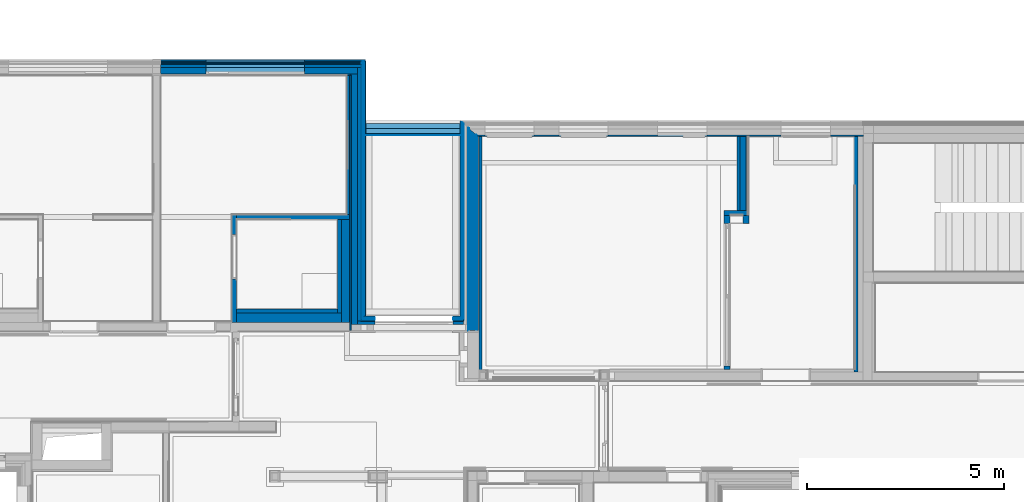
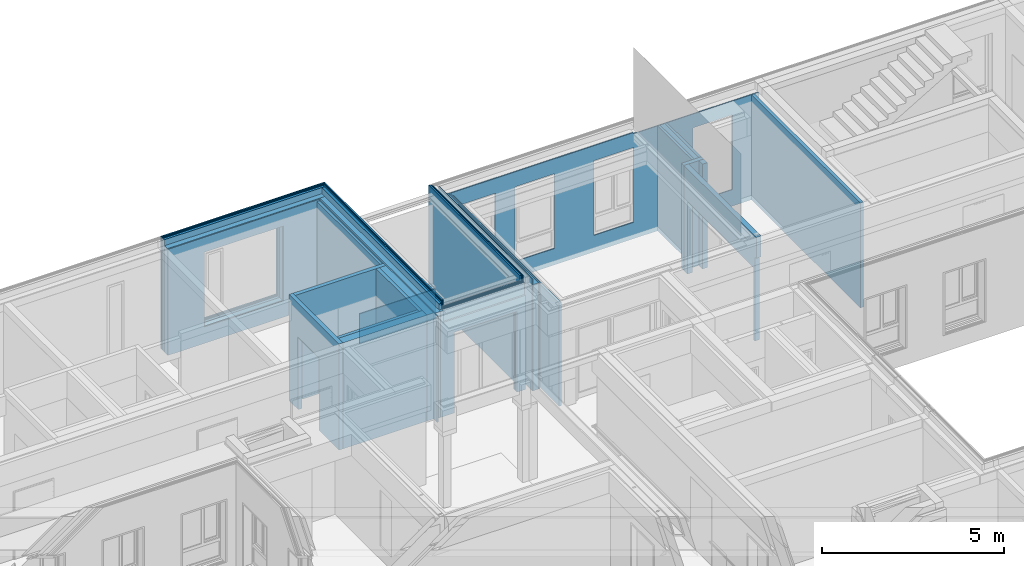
# One storey, part 37 of 222: 46 walls, 22 openings.
"""IFC4 building model written with IfcOpenShell, lengths in metres."""

from ifc_helpers import new_model, entity, si_unit, converted_unit, derived_unit, frame, frame_2d, origin, origin_with_axes, place, context, subcontext, project, spatial, polyline, rectangle, outline, extrude, clip, bounded_halfspace, material, element, save


model = new_model("IFC4")

# Units and contexts
model_context = context("Model", 3, precision=1e-05, world=origin())
body_context = subcontext(model_context, "Body", "Model", "MODEL_VIEW")
ifc_project = project(units=[si_unit("LENGTHUNIT", "METRE"), si_unit("AREAUNIT", "SQUARE_METRE"), si_unit("VOLUMEUNIT", "CUBIC_METRE"), si_unit("MASSUNIT", "GRAM", prefix="KILO"), converted_unit("PLANEANGLEUNIT", "DEGREE", entity("IfcPlaneAngleMeasure", 0.0174532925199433), si_unit("PLANEANGLEUNIT", "RADIAN"), dimensions=[0, 0, 0, 0, 0, 0, 0]), derived_unit("THERMALTRANSMITTANCEUNIT", [(si_unit("POWERUNIT", "WATT"), 1), (si_unit("THERMODYNAMICTEMPERATUREUNIT", "KELVIN"), -1), (si_unit("LENGTHUNIT", "METRE"), -2)]), derived_unit("VOLUMETRICFLOWRATEUNIT", [(si_unit("LENGTHUNIT", "METRE"), 3), (converted_unit("TIMEUNIT", "hour", entity("IfcTimeMeasure", 3600.0), si_unit("TIMEUNIT", "SECOND"), dimensions=[0, 0, 1, 0, 0, 0, 0]), -1), (si_unit("LENGTHUNIT", "METRE"), -1)])], contexts=[model_context])

# Site, building, storey
site_placement = place(None, origin())
site = spatial("IfcSite", under=ifc_project, at=site_placement, Name="Psychiatrie Neubau Wunstorf", CompositionType="ELEMENT")
building_placement = place(site_placement, origin())
building = spatial("IfcBuilding", under=site, at=building_placement, Name="Neubau H2 Stationsgebäude", CompositionType="ELEMENT")
storey_placement = place(building_placement, frame((0.0, 0.0, 3.6)))
storey = spatial("IfcBuildingStorey", under=building, at=storey_placement, Name="H2 Ebene +1", CompositionType="ELEMENT", Elevation=3.6)

# Wall, opening
ifc_material_1 = material(Name="WA-DL")
wall_1_placement = place(storey_placement, frame((35.085, 24.3100036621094, 0.0)))
wall_1 = element("IfcWall", 1, at=wall_1_placement, inside=storey, material=ifc_material_1, Name="Staffel + Zwischendämmung", context=body_context, shape_type="Clipping", body=[
    clip(extrude(rectangle(XDim=2.6925, YDim=0.08, at=frame_2d((1.34625, 0.04), x_axis=(1.0, 0.0))), origin_with_axes(), (0.0, 0.0, 1.0), 3.55), bounded_halfspace(frame((1.39125, 0.0249981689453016, 3.15), z_axis=(0.0, 0.0, -1.0), x_axis=(0.0, 1.0, 0.0)), True, origin_with_axes(), polyline([(2.6925, 0.0), (2.6925, 0.0499963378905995), (0.09, 0.0499963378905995), (0.09, 0.0), (2.6925, 0.0)]))),
])
opening_1_placement = place(wall_1_placement, frame((0.441001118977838, 0.0, 0.0), z_axis=(0.0, 1.0, 0.0), x_axis=(0.0, 0.0, 1.0)))
element("IfcOpeningElement", 2, at=opening_1_placement, cuts=wall_1, Name="Türöffnung", ObjectType="Opening", context=body_context, shape_type="SweptSolid", body=[
    extrude(outline(polyline([(2.7, 1.98299888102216), (2.7, 0.0), (0.0, 0.0), (0.0, 1.98299888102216), (2.7, 1.98299888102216)])), origin_with_axes(), (0.0, 0.0, 1.0), 0.08),
])

ifc_material_2 = material(Name="WA-TP")
wall_2_placement = place(storey_placement, frame((35.165, 24.3900036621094, 0.0)))
wall_2 = element("IfcWall", 3, at=wall_2_placement, inside=storey, material=ifc_material_2, Name="nichtbrennbare Trägerplatte", context=body_context, shape_type="SweptSolid", body=[
    extrude(rectangle(XDim=2.6125, YDim=0.036, at=frame_2d((1.30625, 0.018), x_axis=(1.0, 0.0))), origin_with_axes(), (0.0, 0.0, 1.0), 3.55),
])
opening_2_placement = place(wall_2_placement, frame((0.361001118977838, 0.0, 0.0), z_axis=(0.0, 1.0, 0.0), x_axis=(0.0, 0.0, 1.0)))
element("IfcOpeningElement", 4, at=opening_2_placement, cuts=wall_2, Name="Türöffnung", ObjectType="Opening", context=body_context, shape_type="SweptSolid", body=[
    extrude(outline(polyline([(2.7, 1.98299888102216), (2.7, 0.0), (0.0, 0.0), (0.0, 1.98299888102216), (2.7, 1.98299888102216)])), origin_with_axes(), (0.0, 0.0, 1.0), 0.036),
])

ifc_material_3 = material(Name="WA-KL")
wall_3_placement = place(storey_placement, frame((35.201, 24.4260036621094, 0.0)))
wall_3 = element("IfcWall", 5, at=wall_3_placement, inside=storey, material=ifc_material_3, Name="Konterlattung", context=body_context, shape_type="SweptSolid", body=[
    extrude(rectangle(XDim=2.5265, YDim=0.024, at=frame_2d((1.26325, 0.012), x_axis=(1.0, 0.0))), origin_with_axes(), (0.0, 0.0, 1.0), 3.55),
])
opening_3_placement = place(wall_3_placement, frame((0.325001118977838, 0.0, 0.0), z_axis=(0.0, 1.0, 0.0), x_axis=(0.0, 0.0, 1.0)))
element("IfcOpeningElement", 6, at=opening_3_placement, cuts=wall_3, Name="Türöffnung", ObjectType="Opening", context=body_context, shape_type="SweptSolid", body=[
    extrude(outline(polyline([(2.7, 1.98299888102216), (2.7, 0.0), (0.0, 0.0), (0.0, 1.98299888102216), (2.7, 1.98299888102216)])), origin_with_axes(), (0.0, 0.0, 1.0), 0.024),
])

ifc_material_4 = material(Name="WA-TL")
wall_4_placement = place(storey_placement, frame((35.225, 24.4500036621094, 0.0)))
wall_4 = element("IfcWall", 7, at=wall_4_placement, inside=storey, material=ifc_material_4, Name="Traglattung", context=body_context, shape_type="SweptSolid", body=[
    extrude(rectangle(XDim=2.5025, YDim=0.024, at=frame_2d((1.25125, 0.012), x_axis=(1.0, 0.0))), origin_with_axes(), (0.0, 0.0, 1.0), 3.55),
])
opening_4_placement = place(wall_4_placement, frame((0.301001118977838, 0.0, 0.0), z_axis=(0.0, 1.0, 0.0), x_axis=(0.0, 0.0, 1.0)))
element("IfcOpeningElement", 8, at=opening_4_placement, cuts=wall_4, Name="Türöffnung", ObjectType="Opening", context=body_context, shape_type="SweptSolid", body=[
    extrude(outline(polyline([(2.7, 1.98299888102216), (2.7, 0.0), (0.0, 0.0), (0.0, 1.98299888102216), (2.7, 1.98299888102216)])), origin_with_axes(), (0.0, 0.0, 1.0), 0.024),
])

ifc_material_5 = material(Name="WA-HS")
wall_5_placement = place(storey_placement, frame((35.249, 24.4740036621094, 0.0)))
wall_5 = element("IfcWall", 9, at=wall_5_placement, inside=storey, material=ifc_material_5, Name="Keramikschindel", context=body_context, shape_type="SweptSolid", body=[
    extrude(rectangle(XDim=2.4365, YDim=0.042, at=frame_2d((1.21825, 0.021), x_axis=(1.0, 0.0))), origin_with_axes(), (0.0, 0.0, 1.0), 3.55),
])
opening_5_placement = place(wall_5_placement, frame((0.277001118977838, 0.0, 0.0), z_axis=(0.0, 1.0, 0.0), x_axis=(0.0, 0.0, 1.0)))
element("IfcOpeningElement", 10, at=opening_5_placement, cuts=wall_5, Name="Türöffnung", ObjectType="Opening", context=body_context, shape_type="SweptSolid", body=[
    extrude(outline(polyline([(2.7, 1.98299888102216), (2.7, 0.0), (0.0, 0.0), (0.0, 1.98299888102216), (2.7, 1.98299888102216)])), origin_with_axes(), (0.0, 0.0, 1.0), 0.042),
])

# Walls
ifc_material_6 = material(Name="WA-LB")
wall_6_placement = place(storey_placement, frame((38.1475, 24.1500036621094, 0.0), z_axis=(0.0, 0.0, 1.0), x_axis=(0.0, 1.0, 0.0)))
element("IfcWall", 11, at=wall_6_placement, inside=storey, material=ifc_material_6, Name="2x Gipsfaserplatte", context=body_context, shape_type="SweptSolid", body=[
    extrude(outline(polyline([(0.0, -0.036), (4.91399602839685, -0.036), (4.94532070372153, 0.0), (0.0, 0.0), (0.0, -0.036)])), frame((0.0, 0.036, 0.0), z_axis=(0.0, 0.0, 1.0), x_axis=(1.0, 0.0, 0.0)), (0.0, 0.0, 1.0), 3.55),
])
ifc_material_7 = material(Name="WA-LB")
wall_7_placement = place(storey_placement, frame((38.1115, 24.1500036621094, 0.0), z_axis=(0.0, 0.0, 1.0), x_axis=(0.0, 1.0, 0.0)))
element("IfcWall", 12, at=wall_7_placement, inside=storey, material=ifc_material_7, Name="Holzwerkstoffplatte", context=body_context, shape_type="SweptSolid", body=[
    extrude(outline(polyline([(0.0, -0.019), (4.94532070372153, -0.019), (4.96185317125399, 0.0), (0.0, 0.0), (0.0, -0.019)])), frame((0.0, 0.019, 0.0), z_axis=(0.0, 0.0, 1.0), x_axis=(1.0, 0.0, 0.0)), (0.0, 0.0, 1.0), 3.55),
])
ifc_material_8 = material(Name="WA-HD")
wall_8_placement = place(storey_placement, frame((38.0925, 24.1500036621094, 0.0), z_axis=(0.0, 0.0, 1.0), x_axis=(0.0, 1.0, 0.0)))
element("IfcWall", 13, at=wall_8_placement, inside=storey, material=ifc_material_8, Name="Holzständer + Zwischendämmung", context=body_context, shape_type="SweptSolid", body=[
    extrude(outline(polyline([(0.0, -0.18), (4.96185317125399, -0.18), (5.11847654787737, 0.0), (0.0, 0.0), (0.0, -0.18)])), frame((0.0, 0.18, 0.0), z_axis=(0.0, 0.0, 1.0), x_axis=(1.0, 0.0, 0.0)), (0.0, 0.0, 1.0), 3.55),
])
ifc_material_9 = material(Name="WA-LB")
wall_9_placement = place(storey_placement, frame((37.9125, 24.1500036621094, 0.0), z_axis=(0.0, 0.0, 1.0), x_axis=(0.0, 1.0, 0.0)))
element("IfcWall", 14, at=wall_9_placement, inside=storey, material=ifc_material_9, Name="Holzwerkstoffplatte", context=body_context, shape_type="SweptSolid", body=[
    extrude(outline(polyline([(0.0, -0.019), (5.11847654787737, -0.019), (5.13500901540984, 0.0), (0.0, 0.0), (0.0, -0.019)])), frame((0.0, 0.019, 0.0), z_axis=(0.0, 0.0, 1.0), x_axis=(1.0, 0.0, 0.0)), (0.0, 0.0, 1.0), 3.75),
])
ifc_material_10 = material(Name="WA-KL")
wall_10_placement = place(storey_placement, frame((37.7775, 24.4260036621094, 0.0), z_axis=(0.0, 0.0, 1.0), x_axis=(0.0, 1.0, 0.0)))
element("IfcWall", 15, at=wall_10_placement, inside=storey, material=ifc_material_10, Name="Konterlattung", context=body_context, shape_type="SweptSolid", body=[
    extrude(outline(polyline([(0.0, -0.025), (4.9599440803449, -0.025), (4.98169732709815, 0.0), (0.0, 0.0), (0.0, -0.025)])), frame((0.0, 0.025, 0.0), z_axis=(0.0, 0.0, 1.0), x_axis=(1.0, 0.0, 0.0)), (0.0, 0.0, 1.0), 3.75),
])
ifc_material_11 = material(Name="WA-TL")
wall_11_placement = place(storey_placement, frame((37.7525, 24.4260036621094, 0.0), z_axis=(0.0, 0.0, 1.0), x_axis=(0.0, 1.0, 0.0)))
element("IfcWall", 16, at=wall_11_placement, inside=storey, material=ifc_material_11, Name="Traglattung", context=body_context, shape_type="SweptSolid", body=[
    extrude(outline(polyline([(0.0, -0.025), (4.98169732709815, -0.025), (5.00345057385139, 0.0), (0.0, 0.0), (0.0, -0.025)])), frame((0.0, 0.025, 0.0), z_axis=(0.0, 0.0, 1.0), x_axis=(1.0, 0.0, 0.0)), (0.0, 0.0, 1.0), 3.75),
])
ifc_material_12 = material(Name="WA-HS")
wall_12_placement = place(storey_placement, frame((37.7275, 24.4500036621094, 0.0), z_axis=(0.0, 0.0, 1.0), x_axis=(0.0, 1.0, 0.0)))
element("IfcWall", 17, at=wall_12_placement, inside=storey, material=ifc_material_12, Name="Keramikschindel", context=body_context, shape_type="Clipping", body=[
    clip(extrude(outline(polyline([(0.0, -0.042), (4.97945057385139, -0.042), (5.01599602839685, 0.0), (0.0, 0.0), (0.0, -0.042)])), frame((0.0, 0.042, 0.0), z_axis=(0.0, 0.0, 1.0), x_axis=(1.0, 0.0, 0.0)), (0.0, 0.0, 1.0), 3.75), bounded_halfspace(frame((0.012, 0.021, 3.55), z_axis=(0.0, 0.0, 1.0), x_axis=(0.0, -1.0, 0.0)), True, origin_with_axes(), polyline([(0.0, 0.042), (0.0, 0.0), (0.024, 0.0), (0.024, 0.042), (0.0, 0.042)]))),
])
ifc_material_13 = material(Name="WA-LB")
wall_13_placement = place(storey_placement, frame((34.889, 30.614, 0.0), z_axis=(0.0, 0.0, 1.0), x_axis=(0.0, -1.0, 0.0)))
element("IfcWall", 18, at=wall_13_placement, inside=storey, material=ifc_material_13, context=body_context, shape_type="SweptSolid", body=[
    extrude(rectangle(XDim=6.46399633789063, YDim=0.036, at=frame_2d((3.23199816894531, 0.018), x_axis=(1.0, 0.0))), origin_with_axes(), (0.0, 0.0, 1.0), 3.55),
])
ifc_material_14 = material(Name="WA-HD")
wall_14_placement = place(storey_placement, frame((34.925, 30.65, 0.0), z_axis=(0.0, 0.0, 1.0), x_axis=(0.0, -1.0, 0.0)))
element("IfcWall", 19, at=wall_14_placement, inside=storey, material=ifc_material_14, context=body_context, shape_type="SweptSolid", body=[
    extrude(rectangle(XDim=6.33999633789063, YDim=0.16, at=frame_2d((3.16999816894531, 0.08), x_axis=(1.0, 0.0))), origin_with_axes(), (0.0, 0.0, 1.0), 3.55),
])
ifc_material_15 = material(Name="WA-DL")
wall_15_placement = place(storey_placement, frame((35.085, 30.81, 0.0), z_axis=(0.0, 0.0, 1.0), x_axis=(0.0, -1.0, 0.0)))
element("IfcWall", 20, at=wall_15_placement, inside=storey, material=ifc_material_15, context=body_context, shape_type="SweptSolid", body=[
    extrude(rectangle(XDim=6.41999633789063, YDim=0.08, at=frame_2d((3.20999816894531, 0.04), x_axis=(1.0, 0.0))), origin_with_axes(), (0.0, 0.0, 1.0), 3.75),
])
ifc_material_16 = material(Name="WA-LB")
wall_16_placement = place(storey_placement, frame((35.165, 30.89, 0.0), z_axis=(0.0, 0.0, 1.0), x_axis=(0.0, -1.0, 0.0)))
element("IfcWall", 21, at=wall_16_placement, inside=storey, material=ifc_material_16, context=body_context, shape_type="SweptSolid", body=[
    extrude(rectangle(XDim=6.46399633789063, YDim=0.036, at=frame_2d((3.23199816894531, 0.018), x_axis=(1.0, 0.0))), origin_with_axes(), (0.0, 0.0, 1.0), 3.75),
])
ifc_material_17 = material(Name="WA-KL")
wall_17_placement = place(storey_placement, frame((35.201, 30.926, 0.0), z_axis=(0.0, 0.0, 1.0), x_axis=(0.0, -1.0, 0.0)))
element("IfcWall", 22, at=wall_17_placement, inside=storey, material=ifc_material_17, context=body_context, shape_type="SweptSolid", body=[
    extrude(rectangle(XDim=6.47599633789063, YDim=0.024, at=frame_2d((3.23799816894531, 0.012), x_axis=(1.0, 0.0))), origin_with_axes(), (0.0, 0.0, 1.0), 3.75),
])
ifc_material_18 = material(Name="WA-TL")
wall_18_placement = place(storey_placement, frame((35.225, 30.95, 0.0), z_axis=(0.0, 0.0, 1.0), x_axis=(0.0, -1.0, 0.0)))
element("IfcWall", 23, at=wall_18_placement, inside=storey, material=ifc_material_18, context=body_context, shape_type="SweptSolid", body=[
    extrude(rectangle(XDim=6.47599633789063, YDim=0.024, at=frame_2d((3.23799816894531, 0.012), x_axis=(1.0, 0.0))), origin_with_axes(), (0.0, 0.0, 1.0), 3.75),
])
ifc_material_19 = material(Name="WA-HS")
wall_19_placement = place(storey_placement, frame((35.249, 30.974, 0.0), z_axis=(0.0, 0.0, 1.0), x_axis=(0.0, -1.0, 0.0)))
element("IfcWall", 24, at=wall_19_placement, inside=storey, material=ifc_material_19, Name="Keramikschindel", context=body_context, shape_type="SweptSolid", body=[
    extrude(rectangle(XDim=6.45799633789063, YDim=0.042, at=frame_2d((3.22899816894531, 0.021), x_axis=(1.0, 0.0))), origin_with_axes(), (0.0, 0.0, 1.0), 3.75),
])

# Wall, opening
ifc_material_20 = material(Name="WA-LB")
wall_20_placement = place(storey_placement, frame((30.1, 30.614, 0.0)))
wall_20 = element("IfcWall", 25, at=wall_20_placement, inside=storey, material=ifc_material_20, context=body_context, shape_type="SweptSolid", body=[
    extrude(rectangle(XDim=4.825, YDim=0.036, at=frame_2d((2.4125, 0.018), x_axis=(1.0, 0.0))), origin_with_axes(), (0.0, 0.0, 1.0), 3.55),
])
opening_6_placement = place(wall_20_placement, frame((1.14999999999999, 0.0, 0.55), z_axis=(0.0, 1.0, 0.0), x_axis=(0.0, 0.0, 1.0)))
element("IfcOpeningElement", 26, at=opening_6_placement, cuts=wall_20, Name="Fensteröffnung", ObjectType="Opening", context=body_context, shape_type="SweptSolid", body=[
    extrude(outline(polyline([(2.5, 2.5), (2.5, 0.0), (0.0, 0.0), (0.0, 2.5), (2.5, 2.5)])), origin_with_axes(), (0.0, 0.0, 1.0), 0.036),
])

ifc_material_21 = material(Name="WA-HD")
wall_21_placement = place(storey_placement, frame((30.1, 30.65, 0.0)))
wall_21 = element("IfcWall", 27, at=wall_21_placement, inside=storey, material=ifc_material_21, context=body_context, shape_type="SweptSolid", body=[
    extrude(rectangle(XDim=4.985, YDim=0.16, at=frame_2d((2.4925, 0.08), x_axis=(1.0, 0.0))), origin_with_axes(), (0.0, 0.0, 1.0), 3.55),
])
opening_7_placement = place(wall_21_placement, frame((1.14999999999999, 0.0, 0.55), z_axis=(0.0, 1.0, 0.0), x_axis=(0.0, 0.0, 1.0)))
element("IfcOpeningElement", 28, at=opening_7_placement, cuts=wall_21, Name="Fensteröffnung", ObjectType="Opening", context=body_context, shape_type="SweptSolid", body=[
    extrude(outline(polyline([(2.5, 2.5), (2.5, 0.0), (0.0, 0.0), (0.0, 2.5), (2.5, 2.5)])), origin_with_axes(), (0.0, 0.0, 1.0), 0.16),
])

ifc_material_22 = material(Name="WA-DL")
wall_22_placement = place(storey_placement, frame((30.1, 30.81, 0.0)))
wall_22 = element("IfcWall", 29, at=wall_22_placement, inside=storey, material=ifc_material_22, context=body_context, shape_type="SweptSolid", body=[
    extrude(rectangle(XDim=5.065, YDim=0.08, at=frame_2d((2.5325, 0.04), x_axis=(1.0, 0.0))), origin_with_axes(), (0.0, 0.0, 1.0), 3.75),
])
opening_8_placement = place(wall_22_placement, frame((1.14999999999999, 0.0, 0.55), z_axis=(0.0, 1.0, 0.0), x_axis=(0.0, 0.0, 1.0)))
element("IfcOpeningElement", 30, at=opening_8_placement, cuts=wall_22, Name="Fensteröffnung", ObjectType="Opening", context=body_context, shape_type="SweptSolid", body=[
    extrude(outline(polyline([(2.5, 2.5), (2.5, 0.0), (0.0, 0.0), (0.0, 2.5), (2.5, 2.5)])), origin_with_axes(), (0.0, 0.0, 1.0), 0.08),
])

ifc_material_23 = material(Name="WA-LB")
wall_23_placement = place(storey_placement, frame((30.1, 30.89, 0.0)))
wall_23 = element("IfcWall", 31, at=wall_23_placement, inside=storey, material=ifc_material_23, context=body_context, shape_type="SweptSolid", body=[
    extrude(rectangle(XDim=5.101, YDim=0.036, at=frame_2d((2.5505, 0.018), x_axis=(1.0, 0.0))), origin_with_axes(), (0.0, 0.0, 1.0), 3.75),
])
opening_9_placement = place(wall_23_placement, frame((1.14999999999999, 0.0, 0.55), z_axis=(0.0, 1.0, 0.0), x_axis=(0.0, 0.0, 1.0)))
element("IfcOpeningElement", 32, at=opening_9_placement, cuts=wall_23, Name="Fensteröffnung", ObjectType="Opening", context=body_context, shape_type="SweptSolid", body=[
    extrude(outline(polyline([(2.5, 2.5), (2.5, 0.0), (0.0, 0.0), (0.0, 2.5), (2.5, 2.5)])), origin_with_axes(), (0.0, 0.0, 1.0), 0.036),
])

ifc_material_24 = material(Name="WA-KL")
wall_24_placement = place(storey_placement, frame((30.1, 30.926, 0.0)))
wall_24 = element("IfcWall", 33, at=wall_24_placement, inside=storey, material=ifc_material_24, context=body_context, shape_type="SweptSolid", body=[
    extrude(rectangle(XDim=5.125, YDim=0.024, at=frame_2d((2.5625, 0.012), x_axis=(1.0, 0.0))), origin_with_axes(), (0.0, 0.0, 1.0), 3.75),
])
opening_10_placement = place(wall_24_placement, frame((1.14999999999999, 0.0, 0.55), z_axis=(0.0, 1.0, 0.0), x_axis=(0.0, 0.0, 1.0)))
element("IfcOpeningElement", 34, at=opening_10_placement, cuts=wall_24, Name="Fensteröffnung", ObjectType="Opening", context=body_context, shape_type="SweptSolid", body=[
    extrude(outline(polyline([(2.5, 2.5), (2.5, 0.0), (0.0, 0.0), (0.0, 2.5), (2.5, 2.5)])), origin_with_axes(), (0.0, 0.0, 1.0), 0.024),
])

ifc_material_25 = material(Name="WA-TL")
wall_25_placement = place(storey_placement, frame((30.1, 30.95, 0.0)))
wall_25 = element("IfcWall", 35, at=wall_25_placement, inside=storey, material=ifc_material_25, context=body_context, shape_type="SweptSolid", body=[
    extrude(rectangle(XDim=5.149, YDim=0.024, at=frame_2d((2.5745, 0.012), x_axis=(1.0, 0.0))), origin_with_axes(), (0.0, 0.0, 1.0), 3.75),
])
opening_11_placement = place(wall_25_placement, frame((1.14999999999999, 0.0, 0.55), z_axis=(0.0, 1.0, 0.0), x_axis=(0.0, 0.0, 1.0)))
element("IfcOpeningElement", 36, at=opening_11_placement, cuts=wall_25, Name="Fensteröffnung", ObjectType="Opening", context=body_context, shape_type="SweptSolid", body=[
    extrude(outline(polyline([(2.5, 2.5), (2.5, 0.0), (0.0, 0.0), (0.0, 2.5), (2.5, 2.5)])), origin_with_axes(), (0.0, 0.0, 1.0), 0.024),
])

ifc_material_26 = material(Name="WA-HS")
wall_26_placement = place(storey_placement, frame((30.1, 30.974, 0.0)))
wall_26 = element("IfcWall", 37, at=wall_26_placement, inside=storey, material=ifc_material_26, context=body_context, shape_type="SweptSolid", body=[
    extrude(rectangle(XDim=5.191, YDim=0.042, at=frame_2d((2.5955, 0.021), x_axis=(1.0, 0.0))), origin_with_axes(), (0.0, 0.0, 1.0), 3.75),
])
opening_12_placement = place(wall_26_placement, frame((1.14999999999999, 0.0, 0.55), z_axis=(0.0, 1.0, 0.0), x_axis=(0.0, 0.0, 1.0)))
element("IfcOpeningElement", 38, at=opening_12_placement, cuts=wall_26, Name="Fensteröffnung", ObjectType="Opening", context=body_context, shape_type="SweptSolid", body=[
    extrude(outline(polyline([(2.5, 2.5), (2.5, 0.0), (0.0, 0.0), (0.0, 2.5), (2.5, 2.5)])), origin_with_axes(), (0.0, 0.0, 1.0), 0.042),
])

# Wall, openings
ifc_material_27 = material(Name="WA-LB")
wall_27_placement = place(storey_placement, frame((38.1475, 29.0639996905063, 0.0)))
wall_27 = element("IfcWall", 39, at=wall_27_placement, inside=storey, material=ifc_material_27, context=body_context, shape_type="Clipping", body=[
    clip(extrude(outline(polyline([(0.041373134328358, 0.0), (9.79387313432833, 0.0), (9.79387313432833, 0.036), (0.0, 0.036), (0.041373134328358, 0.0)])), frame((-0.041373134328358, 0.0, 0.0), z_axis=(0.0, 0.0, 1.0), x_axis=(1.0, 0.0, 0.0)), (0.0, 0.0, 1.0), 3.55), bounded_halfspace(frame((7.77125000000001, 0.018, 3.51), z_axis=(0.0, 0.0, -1.0), x_axis=(1.0, 0.0, 0.0)), True, origin_with_axes(), polyline([(5.79000000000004, 0.0), (9.75249999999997, 0.0), (9.75249999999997, 0.036), (5.79000000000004, 0.036), (5.79000000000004, 0.0)]))),
])
opening_13_placement = place(wall_27_placement, frame((3.29000000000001, 0.036, 0.55), z_axis=(0.0, -1.0, 0.0), x_axis=(0.0, 0.0, 1.0)))
element("IfcOpeningElement", 40, at=opening_13_placement, cuts=wall_27, Name="Fensteröffnung", ObjectType="Opening", context=body_context, shape_type="SweptSolid", body=[
    extrude(outline(polyline([(2.5, 1.25), (2.5, 0.0), (0.0, 0.0), (0.0, 1.25), (2.5, 1.25)])), origin_with_axes(), (0.0, 0.0, 1.0), 0.036),
])
opening_14_placement = place(wall_27_placement, frame((5.79000000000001, 0.036, 0.55), z_axis=(0.0, -1.0, 0.0), x_axis=(0.0, 0.0, 1.0)))
element("IfcOpeningElement", 41, at=opening_14_placement, cuts=wall_27, Name="Fensteröffnung", ObjectType="Opening", context=body_context, shape_type="SweptSolid", body=[
    extrude(outline(polyline([(2.5, 1.25), (2.5, 0.0), (0.0, 0.0), (0.0, 1.25), (2.5, 1.25)])), origin_with_axes(), (0.0, 0.0, 1.0), 0.036),
])
opening_15_placement = place(wall_27_placement, frame((1.41500000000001, 0.036, 0.55), z_axis=(0.0, -1.0, 0.0), x_axis=(0.0, 0.0, 1.0)))
element("IfcOpeningElement", 42, at=opening_15_placement, cuts=wall_27, Name="Fensteröffnung", ObjectType="Opening", context=body_context, shape_type="SweptSolid", body=[
    extrude(outline(polyline([(2.5, 1.25), (2.5, 0.0), (0.0, 0.0), (0.0, 1.25), (2.5, 1.25)])), origin_with_axes(), (0.0, 0.0, 1.0), 0.036),
])
opening_16_placement = place(wall_27_placement, frame((8.91500000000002, 0.036, 0.55), z_axis=(0.0, -1.0, 0.0), x_axis=(0.0, 0.0, 1.0)))
element("IfcOpeningElement", 43, at=opening_16_placement, cuts=wall_27, Name="Fensteröffnung", ObjectType="Opening", context=body_context, shape_type="SweptSolid", body=[
    extrude(outline(polyline([(2.5, 1.25), (2.5, 0.0), (0.0, 0.0), (0.0, 1.25), (2.5, 1.25)])), origin_with_axes(), (0.0, 0.0, 1.0), 0.036),
])

# Wall, opening
ifc_material_28 = material(Name="WI-SYS")
wall_28_placement = place(storey_placement, frame((37.6855, 29.3924998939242, -0.51), z_axis=(0.0, 0.0, 1.0), x_axis=(-1.0, 0.0, 0.0)))
wall_28 = element("IfcWall", 44, at=wall_28_placement, inside=storey, material=ifc_material_28, context=body_context, shape_type="SweptSolid", body=[
    extrude(rectangle(XDim=2.3945, YDim=0.1275, at=frame_2d((1.19725, 0.06375), x_axis=(1.0, 0.0))), origin_with_axes(), (0.0, 0.0, 1.0), 3.685),
])
opening_17_placement = place(wall_28_placement, frame((0.0, 0.0, 1.0), z_axis=(0.0, 1.0, 0.0), x_axis=(0.0, 0.0, 1.0)))
element("IfcOpeningElement", 45, at=opening_17_placement, cuts=wall_28, Name="Fensteröffnung", ObjectType="Opening", context=body_context, shape_type="SweptSolid", body=[
    extrude(outline(polyline([(2.755, 2.3945), (2.755, 0.0), (0.0, 0.0), (0.0, 2.3945), (2.755, 2.3945)])), origin_with_axes(), (0.0, 0.0, 1.0), 0.1275),
])

ifc_material_29 = material(Name="WI-SYS")
wall_29_placement = place(storey_placement, frame((37.6855, 29.2649998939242, -0.51), z_axis=(0.0, 0.0, 1.0), x_axis=(-1.0, 0.0, 0.0)))
wall_29 = element("IfcWall", 46, at=wall_29_placement, inside=storey, material=ifc_material_29, context=body_context, shape_type="SweptSolid", body=[
    extrude(rectangle(XDim=2.3945, YDim=0.127500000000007, at=frame_2d((1.19725, 0.0637500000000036), x_axis=(1.0, 0.0))), origin_with_axes(), (0.0, 0.0, 1.0), 3.685),
])
opening_18_placement = place(wall_29_placement, frame((0.0, 0.0, 1.0), z_axis=(0.0, 1.0, 0.0), x_axis=(0.0, 0.0, 1.0)))
element("IfcOpeningElement", 47, at=opening_18_placement, cuts=wall_29, Name="Fensteröffnung", ObjectType="Opening", context=body_context, shape_type="SweptSolid", body=[
    extrude(outline(polyline([(2.755, 2.3945), (2.755, 0.0), (0.0, 0.0), (0.0, 2.3945), (2.755, 2.3945)])), origin_with_axes(), (0.0, 0.0, 1.0), 0.127500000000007),
])

ifc_material_30 = material(Name="WA-FAS")
wall_30_placement = place(storey_placement, frame((37.6855, 29.1374998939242, -0.51), z_axis=(0.0, 0.0, 1.0), x_axis=(-1.0, 0.0, 0.0)))
wall_30 = element("IfcWall", 48, at=wall_30_placement, inside=storey, material=ifc_material_30, context=body_context, shape_type="SweptSolid", body=[
    extrude(rectangle(XDim=2.3945, YDim=0.034, at=frame_2d((1.19725, 0.017), x_axis=(1.0, 0.0))), origin_with_axes(), (0.0, 0.0, 1.0), 3.685),
])
opening_19_placement = place(wall_30_placement, frame((0.0, 0.0, 1.0), z_axis=(0.0, 1.0, 0.0), x_axis=(0.0, 0.0, 1.0)))
element("IfcOpeningElement", 49, at=opening_19_placement, cuts=wall_30, Name="Fensteröffnung", ObjectType="Opening", context=body_context, shape_type="SweptSolid", body=[
    extrude(outline(polyline([(2.755, 2.3945), (2.755, 0.0), (0.0, 0.0), (0.0, 2.3945), (2.755, 2.3945)])), origin_with_axes(), (0.0, 0.0, 1.0), 0.034),
])

ifc_material_31 = material(Name="WA-FAS")
wall_31_placement = place(storey_placement, frame((37.6855, 29.1034998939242, -0.51), z_axis=(0.0, 0.0, 1.0), x_axis=(-1.0, 0.0, 0.0)))
wall_31 = element("IfcWall", 50, at=wall_31_placement, inside=storey, material=ifc_material_31, context=body_context, shape_type="SweptSolid", body=[
    extrude(rectangle(XDim=2.3945, YDim=0.006, at=frame_2d((1.19725, 0.003), x_axis=(1.0, 0.0))), origin_with_axes(), (0.0, 0.0, 1.0), 3.685),
])
opening_20_placement = place(wall_31_placement, frame((0.0, 0.0, 1.0), z_axis=(0.0, 1.0, 0.0), x_axis=(0.0, 0.0, 1.0)))
element("IfcOpeningElement", 51, at=opening_20_placement, cuts=wall_31, Name="Fensteröffnung", ObjectType="Opening", context=body_context, shape_type="SweptSolid", body=[
    extrude(outline(polyline([(2.755, 2.3945), (2.755, 0.0), (0.0, 0.0), (0.0, 2.3945), (2.755, 2.3945)])), origin_with_axes(), (0.0, 0.0, 1.0), 0.006),
])

ifc_material_32 = material(Name="WI-LB")
wall_32_placement = place(storey_placement, frame((44.525, 23.0959999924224, 0.0), z_axis=(0.0, 0.0, 1.0), x_axis=(0.0, 1.0, 0.0)))
wall_32 = element("IfcWall", 52, at=wall_32_placement, inside=storey, material=ifc_material_32, context=body_context, shape_type="Clipping", body=[
    clip(extrude(rectangle(XDim=3.96799969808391, YDim=0.15, at=frame_2d((1.98399984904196, 0.075), x_axis=(1.0, 0.0))), origin_with_axes(), (0.0, 0.0, 1.0), 3.51), bounded_halfspace(frame((0.0375, 0.075, 2.81), z_axis=(0.0, 0.0, 1.0), x_axis=(0.0, 1.0, 0.0)), True, origin_with_axes(), polyline([(0.075, 0.0), (0.075, 0.15), (0.0, 0.15), (0.0, 0.0), (0.075, 0.0)]))),
])
opening_21_placement = place(wall_32_placement, frame((0.157999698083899, 0.0, 0.0), z_axis=(0.0, 1.0, 0.0), x_axis=(0.0, 0.0, 1.0)))
element("IfcOpeningElement", 53, at=opening_21_placement, cuts=wall_32, Name="Türöffnung", ObjectType="Opening", context=body_context, shape_type="SweptSolid", body=[
    extrude(outline(polyline([(2.41, 3.61), (2.41, 0.0), (0.0, 0.0), (0.0, 3.61), (2.41, 3.61)])), origin_with_axes(), (0.0, 0.0, 1.0), 0.15),
])

# Wall
ifc_material_33 = material(Name="WI-LB")
wall_33_placement = place(storey_placement, frame((45.0, 27.1889996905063, 0.0), z_axis=(0.0, 0.0, 1.0), x_axis=(-1.0, 2.9103830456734e-14, 0.0)))
element("IfcWall", 54, at=wall_33_placement, inside=storey, material=ifc_material_33, context=body_context, shape_type="SweptSolid", body=[
    extrude(rectangle(XDim=0.624999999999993, YDim=0.125, at=frame_2d((0.312499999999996, 0.0625), x_axis=(1.0, 0.0))), origin_with_axes(), (0.0, 0.0, 1.0), 3.51),
])

# Wall, opening
ifc_material_34 = material(Name="WI-LB")
wall_34_placement = place(storey_placement, frame((31.898, 27.0895, 0.0), z_axis=(0.0, 0.0, 1.0), x_axis=(0.0, -1.0, 0.0)))
wall_34 = element("IfcWall", 55, at=wall_34_placement, inside=storey, material=ifc_material_34, context=body_context, shape_type="SweptSolid", body=[
    extrude(rectangle(XDim=2.74, YDim=0.125, at=frame_2d((1.37, 0.0625), x_axis=(1.0, 0.0))), origin_with_axes(), (0.0, 0.0, 1.0), 3.55),
])
opening_22_placement = place(wall_34_placement, frame((1.635, 0.125, 0.0), z_axis=(0.0, -1.0, 0.0), x_axis=(0.0, 0.0, 1.0)))
element("IfcOpeningElement", 56, at=opening_22_placement, cuts=wall_34, Name="Türöffnung", ObjectType="Opening", context=body_context, shape_type="SweptSolid", body=[
    extrude(outline(polyline([(2.41, 1.135), (2.41, 0.0), (0.0, 0.0), (0.0, 1.135), (2.41, 1.135)])), origin_with_axes(), (0.0, 0.0, 1.0), 0.125),
])

# Walls
ifc_material_35 = material(Name="WI-LB")
wall_35_placement = place(storey_placement, frame((32.023, 26.9645, 0.0), z_axis=(0.0, 0.0, 1.0), x_axis=(1.0, 3.80807272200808e-15, 0.0)))
element("IfcWall", 57, at=wall_35_placement, inside=storey, material=ifc_material_35, context=body_context, shape_type="SweptSolid", body=[
    extrude(rectangle(XDim=2.86599999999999, YDim=0.125, at=frame_2d((1.433, 0.0625), x_axis=(1.0, 0.0))), origin_with_axes(), (0.0, 0.0, 1.0), 3.55),
])
ifc_material_36 = material(Name="WI-LB")
wall_36_placement = place(storey_placement, frame((45.0000000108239, 26.8639996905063, 0.0), z_axis=(0.0, 0.0, 1.0), x_axis=(-3.3304349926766e-08, 1.0, 0.0)))
element("IfcWall", 58, at=wall_36_placement, inside=storey, material=ifc_material_36, context=body_context, shape_type="SweptSolid", body=[
    extrude(rectangle(XDim=0.2, YDim=0.14999999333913, at=frame_2d((0.1, 0.074999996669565), x_axis=(1.0, 0.0))), origin_with_axes(), (0.0, 0.0, 1.0), 3.51),
])
ifc_material_37 = material(Name="WI-IW")
wall_37_placement = place(storey_placement, frame((34.579, 24.6995, 0.0), z_axis=(0.0, 0.0, 1.0), x_axis=(-1.0, -4.2699281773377e-15, 0.0)))
element("IfcWall", 59, at=wall_37_placement, inside=storey, material=ifc_material_37, context=body_context, shape_type="SweptSolid", body=[
    extrude(rectangle(XDim=2.55599999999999, YDim=0.1, at=frame_2d((1.278, 0.05), x_axis=(1.0, 0.0))), origin_with_axes(), (0.0, 0.0, 1.0), 3.55),
])
ifc_material_38 = material(Name="Installationsraum")
wall_38_placement = place(storey_placement, frame((34.679, 24.5995, 0.0), z_axis=(0.0, 0.0, 1.0), x_axis=(-1.0, -2.73944187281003e-15, 0.0)))
element("IfcWall", 60, at=wall_38_placement, inside=storey, material=ifc_material_38, context=body_context, shape_type="SweptSolid", body=[
    extrude(rectangle(XDim=2.65599999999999, YDim=0.25, at=frame_2d((1.328, 0.125), x_axis=(1.0, 0.0))), origin_with_axes(), (0.0, 0.0, 1.0), 3.55),
])
ifc_material_39 = material(Name="WI-IW")
wall_39_placement = place(storey_placement, frame((34.579, 26.9645, 0.0), z_axis=(0.0, 0.0, 1.0), x_axis=(-9.22954454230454e-15, -1.0, 0.0)))
element("IfcWall", 61, at=wall_39_placement, inside=storey, material=ifc_material_39, context=body_context, shape_type="SweptSolid", body=[
    extrude(rectangle(XDim=2.365, YDim=0.1, at=frame_2d((1.1825, 0.05), x_axis=(1.0, 0.0))), origin_with_axes(), (0.0, 0.0, 1.0), 3.55),
])
ifc_material_40 = material(Name="Installationsraum")
wall_40_placement = place(storey_placement, frame((34.679, 26.9645, 0.0), z_axis=(0.0, 0.0, 1.0), x_axis=(-8.34717890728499e-15, -1.0, 0.0)))
element("IfcWall", 62, at=wall_40_placement, inside=storey, material=ifc_material_40, context=body_context, shape_type="SweptSolid", body=[
    extrude(rectangle(XDim=2.615, YDim=0.21, at=frame_2d((1.3075, 0.105), x_axis=(1.0, 0.0))), origin_with_axes(), (0.0, 0.0, 1.0), 3.55),
])
ifc_material_41 = material(Name="WI-LB")
wall_41_placement = place(storey_placement, frame((34.814, 30.614, 0.0), z_axis=(0.0, 0.0, 1.0), x_axis=(0.0, -1.0, 0.0)))
element("IfcWall", 63, at=wall_41_placement, inside=storey, material=ifc_material_41, context=body_context, shape_type="SweptSolid", body=[
    extrude(rectangle(XDim=3.52450000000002, YDim=0.075, at=frame_2d((1.76225000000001, 0.0375), x_axis=(1.0, 0.0))), origin_with_axes(), (0.0, 0.0, 1.0), 3.5),
])
ifc_material_42 = material(Name="WI-LB")
wall_42_placement = place(storey_placement, frame((38.244, 23.1540027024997, 0.0), z_axis=(0.0, 0.0, 1.0), x_axis=(0.0, 1.0, 0.0)))
element("IfcWall", 64, at=wall_42_placement, inside=storey, material=ifc_material_42, context=body_context, shape_type="SweptSolid", body=[
    extrude(rectangle(XDim=5.90999698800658, YDim=0.075, at=frame_2d((2.95499849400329, 0.0375), x_axis=(1.0, 0.0))), origin_with_axes(), (0.0, 0.0, 1.0), 3.45),
])
ifc_material_43 = material(Name="WI-VS")
wall_43_placement = place(storey_placement, frame((47.764, 23.0959999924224, 0.0), z_axis=(0.0, 0.0, 1.0), x_axis=(0.0, 1.0, 0.0)))
element("IfcWall", 65, at=wall_43_placement, inside=storey, material=ifc_material_43, context=body_context, shape_type="SweptSolid", body=[
    extrude(rectangle(XDim=5.96799969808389, YDim=0.1, at=frame_2d((2.98399984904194, 0.05), x_axis=(1.0, 0.0))), origin_with_axes(), (0.0, 0.0, 1.0), 3.51),
])
ifc_material_44 = material(Name="WI-IW")
wall_44_placement = place(storey_placement, frame((44.7, 29.0639996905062, 0.0), z_axis=(0.0, 0.0, 1.0), x_axis=(0.0, -1.0, 0.0)))
element("IfcWall", 66, at=wall_44_placement, inside=storey, material=ifc_material_44, context=body_context, shape_type="SweptSolid", body=[
    extrude(rectangle(XDim=1.87499999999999, YDim=0.075, at=frame_2d((0.937499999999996, 0.0375), x_axis=(1.0, 0.0))), origin_with_axes(), (0.0, 0.0, 1.0), 3.51),
])
ifc_material_45 = material(Name="Installationsraum")
wall_45_placement = place(storey_placement, frame((44.775, 29.0639996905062, 0.0), z_axis=(0.0, 0.0, 1.0), x_axis=(0.0, -1.0, 0.0)))
element("IfcWall", 67, at=wall_45_placement, inside=storey, material=ifc_material_45, context=body_context, shape_type="SweptSolid", body=[
    extrude(rectangle(XDim=1.87499999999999, YDim=0.15, at=frame_2d((0.937499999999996, 0.075), x_axis=(1.0, 0.0))), origin_with_axes(), (0.0, 0.0, 1.0), 3.51),
])
ifc_material_46 = material(Name="WI-IW")
wall_46_placement = place(storey_placement, frame((44.925, 29.0639996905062, 0.0), z_axis=(0.0, 0.0, 1.0), x_axis=(0.0, -1.0, 0.0)))
element("IfcWall", 68, at=wall_46_placement, inside=storey, material=ifc_material_46, context=body_context, shape_type="SweptSolid", body=[
    extrude(rectangle(XDim=1.87499999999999, YDim=0.075, at=frame_2d((0.937499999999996, 0.0375), x_axis=(1.0, 0.0))), origin_with_axes(), (0.0, 0.0, 1.0), 3.51),
])

save(model, "model.ifc")
